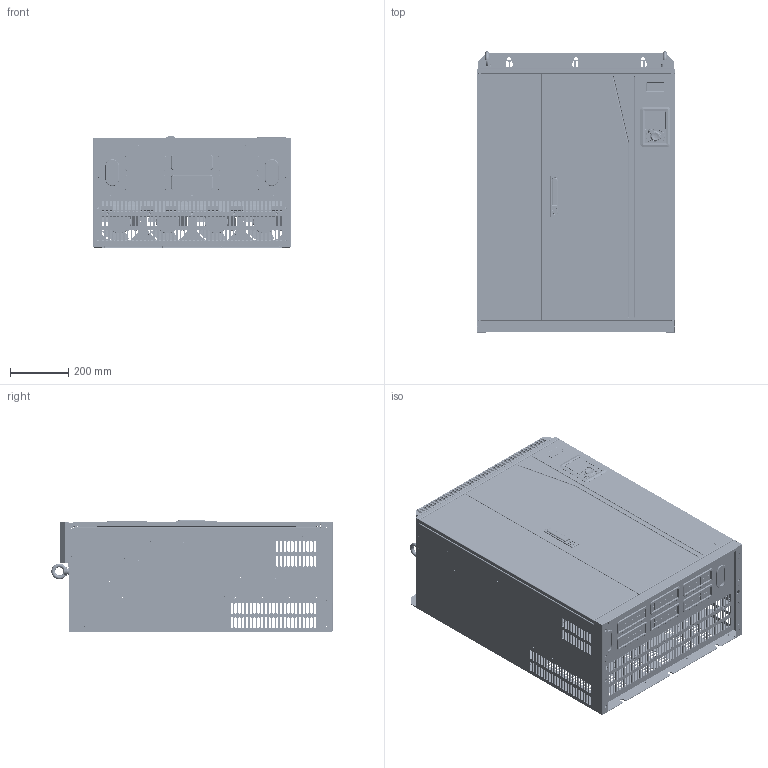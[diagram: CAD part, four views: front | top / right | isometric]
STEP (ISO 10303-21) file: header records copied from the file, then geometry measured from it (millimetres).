
FILE_DESCRIPTION((''),'2;1');
FILE_NAME('ST600-315G3_ASM','2019-07-03T',('Administrator'),(''),'PRO/ENGINEER BY PARAMETRIC TECHNOLOGY CORPORATION, 2010100','PRO/ENGINEER BY PARAMETRIC TECHNOLOGY CORPORATION, 2010100','');
FILE_SCHEMA(('CONFIG_CONTROL_DESIGN'));
Products named in the file (166): 80380118; S-M5-ZC; S-M4-ZC; 80380118_ASM; 80381360; S-M6-ZC; BSO-M4-12-ZC; 80381360_ASM; 80380122; 80380113; S-M8-ZC; 80380113_ASM; 80380128; 80380128_ASM; 80380120; 80380120_ASM; 80380132; 80380125; 80380125_ASM; 80380126; 80380126_ASM; 80380127; 80380127_ASM; 80380121; NZ-M12-ZC; 80380121_ASM; 80380115; 80380191; 80310020; MT100-JEIDI; GB12617_4_4X10_SL; 61061125_ASM; 80384723; 80384723_ASM; 80384723SY; CL225-1A-01; CL225-1A-02; GB896-86-5; CL225-1A-03; CL225-1A_Y_ASM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
Assembly tree (672 placements, depth 6):
  ST600-315G3_ASM
    40800961_ASM
      61061125_ASM
        80380118_ASM
          80380118
          S-M5-ZC  x2
          S-M4-ZC  x16
        80381360_ASM
          80381360
          S-M6-ZC  x9
          S-M4-ZC  x13
          BSO-M4-12-ZC  x2
          S-M5-ZC  x7
        80380122
        80380113_ASM
          80380113
          S-M8-ZC  x8
          S-M5-ZC  x6
        80380128_ASM
          80380128
          S-M4-ZC  x58
          S-M6-ZC  x9
        80380120_ASM  x2
          80380120
          S-M4-ZC
        80380132
        80380125_ASM
          80380125
          S-M4-ZC  x2
        80380126_ASM  x4
          80380126
          S-M4-ZC
        80380127_ASM  x4
          80380127
          S-M8-ZC
        80380121_ASM  x2
          80380121
          NZ-M12-ZC
        80380115
        80380191
        80310020  x2
        MT100-JEIDI  x2
        GB12617_4_4X10_SL  x111
      61761095_ASM
        80384723_ASM
          80384723
        80384723SY
        CL225-1A_Y_ASM
          CL225-1A-01
          CL225-1A-02
          GB896-86-5
          CL225-1A-03
        FUJIAN
        MS818-1S_ASM
          MS818-01
          MS818-02
          MS818-03
          MS818-04
          S1C7200-LF09
          MS818-06
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Bounding box: 680.7 x 965.72 x 387.5 mm (x, y, z)
Volume: 12645072.2 mm3; surface area: 10239625.4 mm2
Topology: 661 solids, 690 shells, 35792 faces, 91776 edges, 58745 vertices
Faces by surface type: plane 19620, cylinder 10751, cone 3167, torus 987, bspline 690, sphere 452, extrusion 124, revolution 1
Entity records: 524384 total; most frequent: CARTESIAN_POINT 131885, DIRECTION 83413, ORIENTED_EDGE 78734, EDGE_CURVE 39399, AXIS2_PLACEMENT_3D 30515, VERTEX_POINT 25195, VECTOR 22382, LINE 22262
